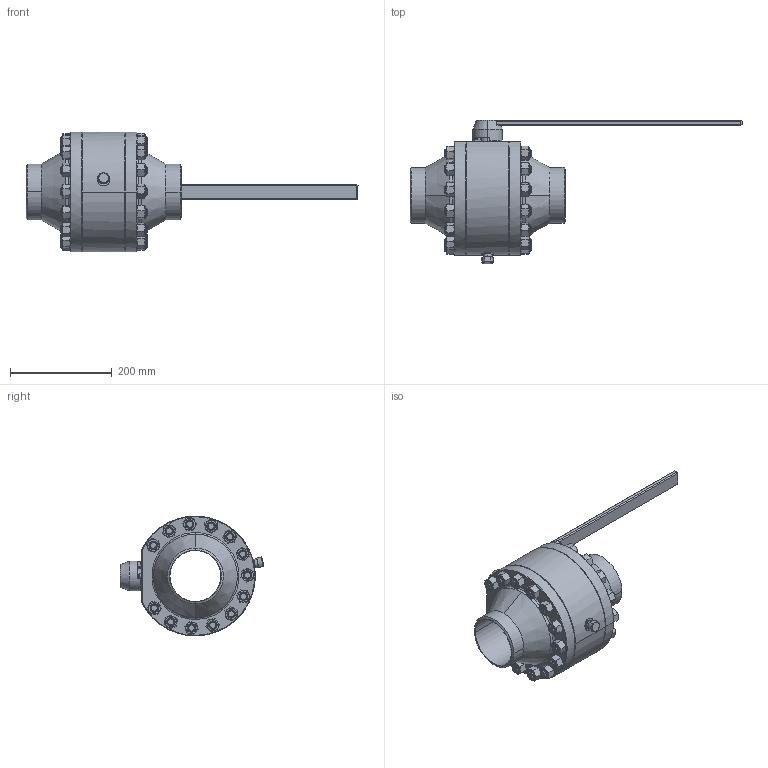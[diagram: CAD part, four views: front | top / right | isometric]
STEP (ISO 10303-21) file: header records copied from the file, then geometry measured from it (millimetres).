
FILE_DESCRIPTION(('STEP AP203'), '1');
FILE_NAME('ZARDP 100.025.40.P.stp', '2013-12-09T06:06:01', ('UNSPECIFIED UNSPECIFIED'), ('UNSPECIFIED'), 'ASCON STEP Converter 1.3', 'Kompas 3D', '');
FILE_SCHEMA(('CONFIG_CONTROL_DESIGN','SUPPORT_RESOURCE_SCHEMA'));
Length unit declared in the file: millimetre
Products named in the file (1): 24
Bounding box: 652.51 x 282.51 x 235 mm (x, y, z)
Volume: 4664114.5 mm3; surface area: 677364.2 mm2
Topology: 35 solids, 35 shells, 927 faces, 2275 edges, 1483 vertices
Faces by surface type: cone 350, plane 333, cylinder 240, bspline 4
Entity records: 41733 total; most frequent: CARTESIAN_POINT 19333, DIRECTION 4639, ORIENTED_EDGE 4550, EDGE_CURVE 2275, AXIS2_PLACEMENT_3D 1906, VERTEX_POINT 1483, EDGE_LOOP 1084, CIRCLE 982
